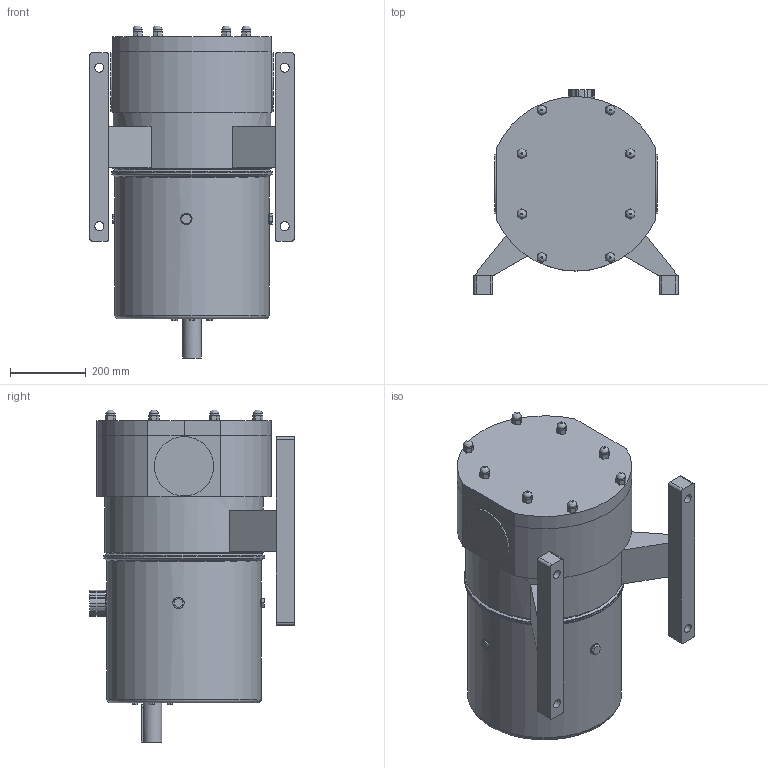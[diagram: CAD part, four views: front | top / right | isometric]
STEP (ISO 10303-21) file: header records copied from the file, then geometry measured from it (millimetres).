
FILE_DESCRIPTION(/* description */ (''),/* implementation_level */ '2;1');
FILE_NAME(/* name */ 'T:\_Engineering\Read Only\Products\_DOCUMENTATION\APV PUMPS\DRAWINGS\3D\DW\NEW_3D\STEP\DW6_519_7_shaft_top.stp',/* time_stamp */ '2018-10-15T14:12:49+02:00',/* author */ ('R46TAF'),/* organization */ (''),/* preprocessor_version */ 'ST-DEVELOPER v17',/* originating_system */ 'Autodesk Inventor 2018',/* authorisation */ '');
FILE_SCHEMA (('AUTOMOTIVE_DESIGN { 1 0 10303 214 3 1 1 }'));
Length unit declared in the file: millimetre
Products named in the file (1): DW6_519_7_shaft_top
Bounding box: 540.6 x 542.3 x 879.28 mm (x, y, z)
Volume: 61195641.5 mm3; surface area: 2508295.5 mm2
Topology: 1 solids, 3 shells, 318 faces, 790 edges, 503 vertices
Faces by surface type: plane 244, cylinder 51, bspline 12, cone 7, torus 4
Full cylindrical faces by diameter (mm): 24 x12, 30 x4, 42 x1, 50 x1, 90 x1, 110 x1, 157 x2, 405.6 x2, 408.6 x2, 420 x2, 426 x1
Entity records: 9989 total; most frequent: CARTESIAN_POINT 2089, DIRECTION 1622, ORIENTED_EDGE 1596, EDGE_CURVE 798, LINE 570, VECTOR 570, AXIS2_PLACEMENT_3D 526, VERTEX_POINT 511
